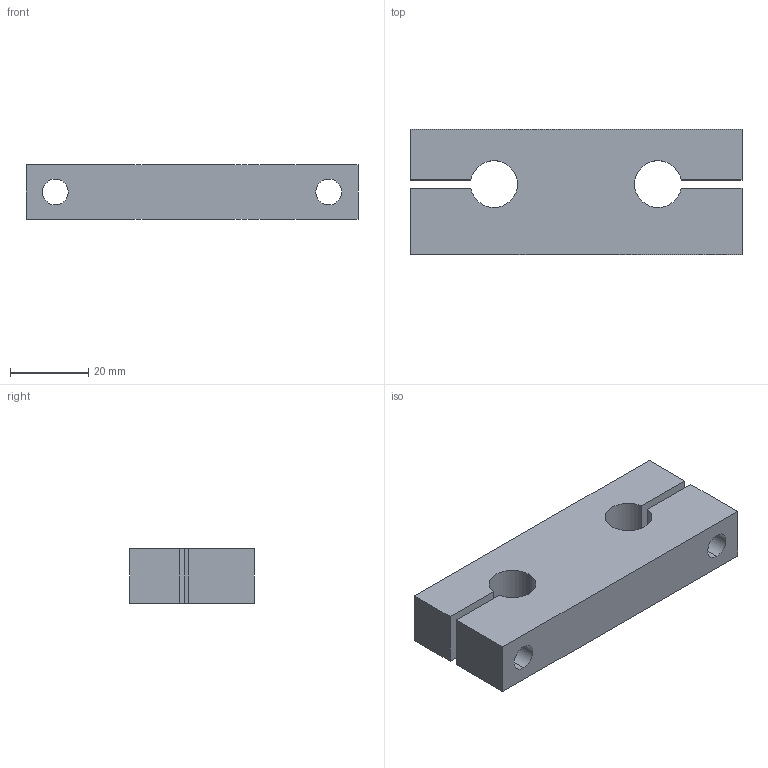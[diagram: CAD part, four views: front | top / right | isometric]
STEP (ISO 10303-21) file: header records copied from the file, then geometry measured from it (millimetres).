
FILE_DESCRIPTION (( 'STEP AP214' ), '1' );
FILE_NAME ('KTA-12.step', '2020-03-04T13:37:43', ( '' ), ( '' ), 'SwSTEP 2.0', 'SolidWorks 2019', '' );
FILE_SCHEMA (( 'AUTOMOTIVE_DESIGN' ));
Length unit declared in the file: millimetre
Products named in the file (1): KTA-12
Bounding box: 85 x 32 x 14 mm (x, y, z)
Volume: 30884.8 mm3; surface area: 11155.5 mm2
Topology: 1 solids, 1 shells, 35 faces, 89 edges, 57 vertices
Faces by surface type: cylinder 17, plane 14, cone 4
Entity records: 1103 total; most frequent: DIRECTION 195, CARTESIAN_POINT 180, ORIENTED_EDGE 174, EDGE_CURVE 87, AXIS2_PLACEMENT_3D 72, VERTEX_POINT 57, LINE 51, VECTOR 51
